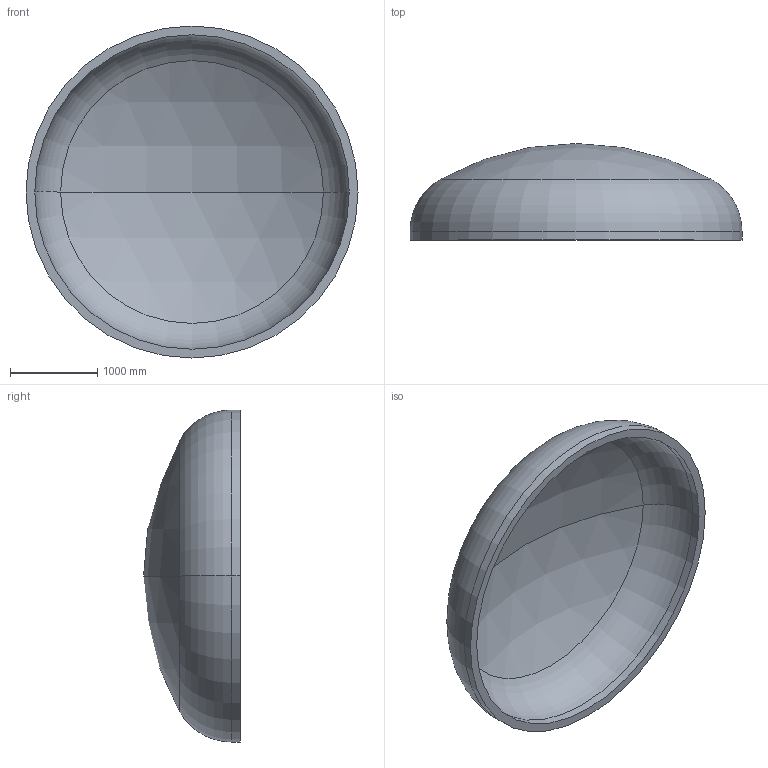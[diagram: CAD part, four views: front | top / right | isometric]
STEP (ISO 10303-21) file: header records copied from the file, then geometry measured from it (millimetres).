
FILE_DESCRIPTION (( 'STEP AP203' ), '1' );
FILE_NAME ('DIN 28013 Korbbogenform_-_Boden DIN 28013 - 3800 x 100 - I - s=100.step', '2016-07-01T21:48:09', ( '' ), ( '' ), 'SwSTEP 2.0', 'SolidWorks 2013', '' );
FILE_SCHEMA (( 'CONFIG_CONTROL_DESIGN' ));
Length unit declared in the file: millimetre
Products named in the file (1): DIN 28013 Korbbogenform_-_Boden DIN 28013 - 3800 x 100 - I - s=100
Bounding box: 3800 x 1106.74 x 3800 mm (x, y, z)
Volume: 1633631121.4 mm3; surface area: 33855944.5 mm2
Topology: 1 solids, 1 shells, 13 faces, 24 edges, 14 vertices
Faces by surface type: torus 4, cylinder 4, sphere 4, plane 1
Entity records: 407 total; most frequent: DIRECTION 72, CARTESIAN_POINT 52, ORIENTED_EDGE 48, AXIS2_PLACEMENT_3D 34, EDGE_CURVE 24, CIRCLE 20, EDGE_LOOP 14, VERTEX_POINT 14
